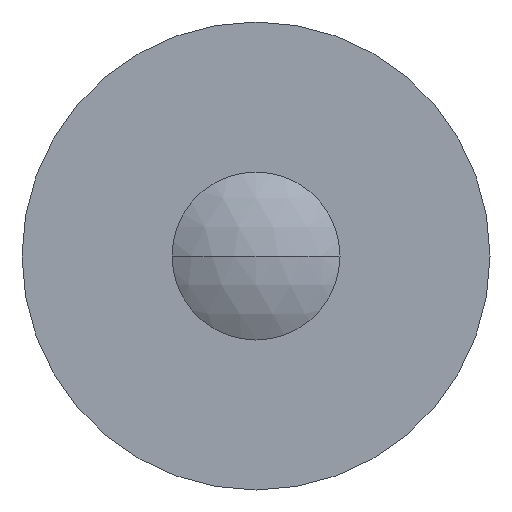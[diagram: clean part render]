
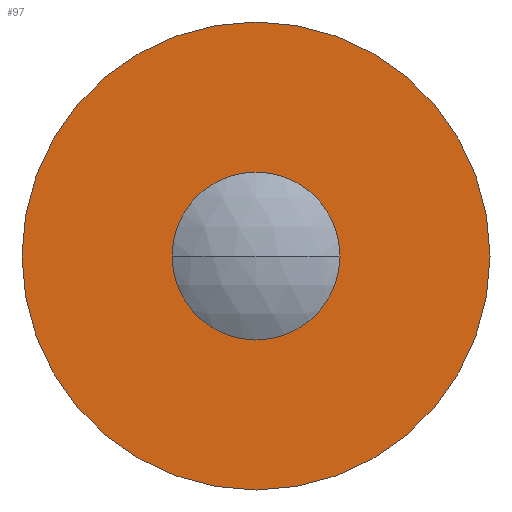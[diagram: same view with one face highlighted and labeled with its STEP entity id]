
A CAD part, front view. The second image highlights one B-rep face of the part: STEP entity #97.
In plain terms, the highlighted planar face has unit normal (0, -1, 0).
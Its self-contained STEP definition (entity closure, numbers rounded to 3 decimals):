
#97=ADVANCED_FACE('',(#159,#160),#161,.F.);
#159=FACE_OUTER_BOUND('',#235,.T.);
#160=FACE_BOUND('',#236,.T.);
#161=PLANE('',#237);
#235=EDGE_LOOP('',(#429,#430));
#236=EDGE_LOOP('',(#431,#432));
#237=AXIS2_PLACEMENT_3D('',#433,#434,#435);
#429=ORIENTED_EDGE('',*,*,#565,.T.);
#430=ORIENTED_EDGE('',*,*,#567,.T.);
#431=ORIENTED_EDGE('',*,*,#574,.F.);
#432=ORIENTED_EDGE('',*,*,#575,.F.);
#433=CARTESIAN_POINT('',(-9.75,-2.5,0.0));
#434=DIRECTION('',(-0.0,1.0,0.0));
#435=DIRECTION('',(1.0,0.0,0.0));
#565=EDGE_CURVE('',#670,#668,#671,.T.);
#567=EDGE_CURVE('',#668,#670,#673,.T.);
#574=EDGE_CURVE('',#686,#687,#688,.T.);
#575=EDGE_CURVE('',#687,#686,#689,.T.);
#668=VERTEX_POINT('',#821);
#670=VERTEX_POINT('',#824);
#671=CIRCLE('',#825,9.75);
#673=CIRCLE('',#828,9.75);
#686=VERTEX_POINT('',#847);
#687=VERTEX_POINT('',#848);
#688=CIRCLE('',#849,3.5);
#689=CIRCLE('',#850,3.5);
#821=CARTESIAN_POINT('',(0.,-2.5,9.75));
#824=CARTESIAN_POINT('',(0.0,-2.5,-9.75));
#825=AXIS2_PLACEMENT_3D('',#973,#974,#975);
#828=AXIS2_PLACEMENT_3D('',#977,#978,#979);
#847=CARTESIAN_POINT('',(-3.5,-2.5,0.0));
#848=CARTESIAN_POINT('',(3.5,-2.5,0.));
#849=AXIS2_PLACEMENT_3D('',#986,#987,#988);
#850=AXIS2_PLACEMENT_3D('',#989,#990,#991);
#973=CARTESIAN_POINT('',(0.0,-2.5,0.0));
#974=DIRECTION('',(0.0,-1.0,0.0));
#975=DIRECTION('',(0.0,0.0,-1.0));
#977=CARTESIAN_POINT('',(0.0,-2.5,0.0));
#978=DIRECTION('',(0.0,-1.0,0.0));
#979=DIRECTION('',(0.0,0.0,-1.0));
#986=CARTESIAN_POINT('',(0.0,-2.5,0.0));
#987=DIRECTION('',(0.0,-1.0,0.0));
#988=DIRECTION('',(0.0,0.0,-1.0));
#989=CARTESIAN_POINT('',(0.0,-2.5,0.0));
#990=DIRECTION('',(0.0,-1.0,0.0));
#991=DIRECTION('',(0.0,0.0,-1.0));
